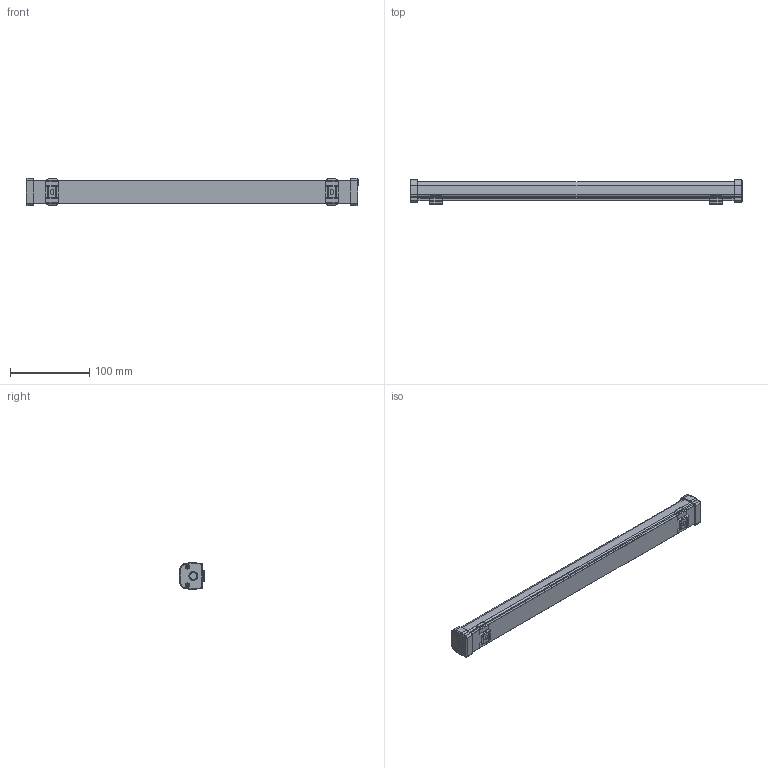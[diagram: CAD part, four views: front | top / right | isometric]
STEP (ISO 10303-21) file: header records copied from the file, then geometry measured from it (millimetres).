
FILE_DESCRIPTION (( 'STEP AP203' ), '1' );
FILE_NAME ('QKR572_3D00134 QEL-400 3D紫賊_220804.STEP', '2022-08-04T05:48:52', ( 'QKR_NOTE119' ), ( '' ), 'SwSTEP 2.0', 'SolidWorks 2019', '' );
FILE_SCHEMA (( 'CONFIG_CONTROL_DESIGN' ));
Length unit declared in the file: millimetre
Products named in the file (1): QKR572_3D00134 QEL-400 3D紫賊_220804
Bounding box: 420 x 30.75 x 34.6 mm (x, y, z)
Volume: 287234.9 mm3; surface area: 48269.7 mm2
Topology: 1 solids, 5 shells, 463 faces, 1233 edges, 784 vertices
Faces by surface type: plane 176, cylinder 129, cone 64, torus 64, bspline 22, sphere 8
Entity records: 15476 total; most frequent: CARTESIAN_POINT 4047, ORIENTED_EDGE 2450, DIRECTION 2383, EDGE_CURVE 1225, AXIS2_PLACEMENT_3D 970, VERTEX_POINT 784, CIRCLE 528, EDGE_LOOP 499
